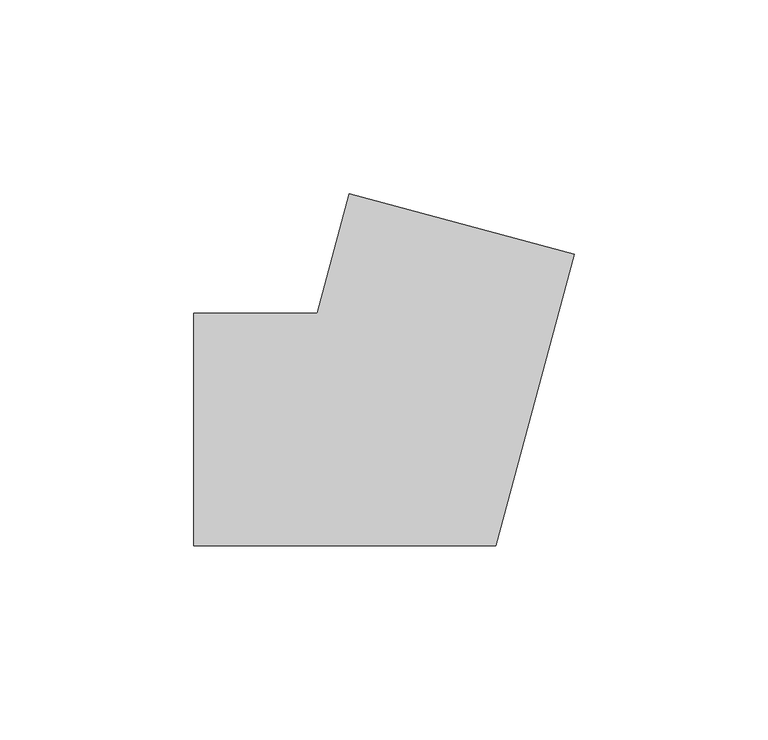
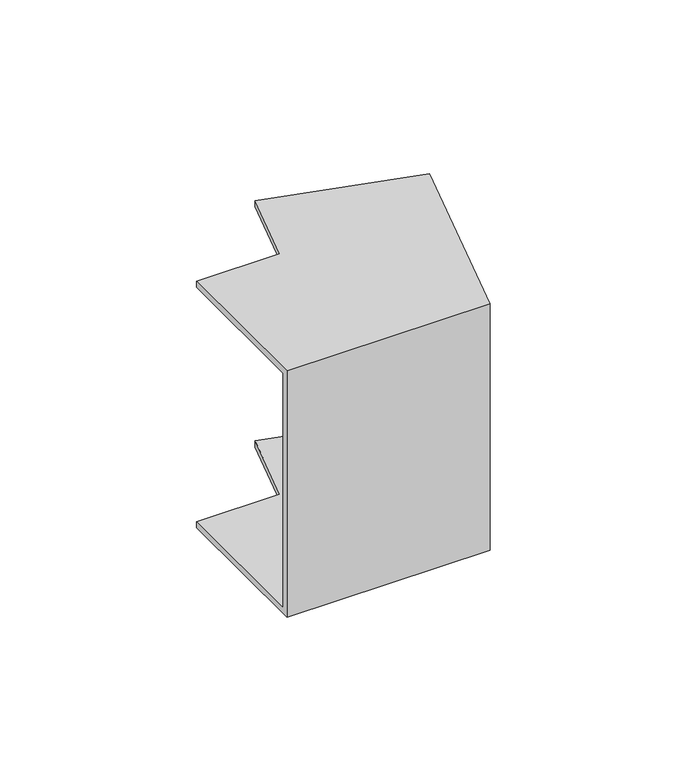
"""IFC4 building model written with IfcOpenShell, lengths in millimetres: cable carrier fitting geometry, КНС_УголВнутренний_ILC_DKC : Угол внутренний_DKC."""

from ifc_helpers import new_model, si_unit, origin, place, context, project, spatial, faceted_brep, source, transform, mapped, element, save


def cable_carrier_fitting_fd6ecaf9(model_context):
    return source(origin(), model_context, "Body", "Brep", [
        faceted_brep([(-54.8762542, -30.0, 50.0), (-54.8762542, 30.0, 50.0), (-54.8762542, 30.0, 47.5), (-54.8762542, -27.5, 47.5), (-54.8762542, -27.5, -47.5), (-54.8762542, 30.0, -47.5), (-54.8762542, 30.0, -50.0), (-54.8762542, -30.0, -50.0), (43.1807945, 45.2418198, 50.0), (43.1807945, 45.2418198, -50.0), (-14.7747551, 60.7709626, -50.0), (-14.7747551, 60.7709626, -47.5), (40.7659799, 45.8888675, -47.5), (40.7659799, 45.8888675, 47.5), (-14.7747551, 60.7709626, 47.5), (-14.7747551, 60.7709626, 50.0), (23.0198096, -30.0, 50.0), (-23.0198096, 30.0, 50.0), (-23.0198096, 30.0, 47.5), (21.1014922, -27.5, 47.5), (21.1014922, -27.5, -47.5), (-23.0198096, 30.0, -47.5), (-23.0198096, 30.0, -50.0), (23.0198096, -30.0, -50.0)], [[[0, 1, 2, 3, 4, 5, 6, 7]], [[8, 9, 10, 11, 12, 13, 14, 15]], [[1, 0, 16, 8, 15, 17]], [[2, 1, 17, 18]], [[3, 2, 18, 14, 13, 19]], [[4, 3, 19, 20]], [[5, 4, 20, 12, 11, 21]], [[6, 5, 21, 22]], [[7, 6, 22, 10, 9, 23]], [[0, 7, 23, 16]], [[18, 17, 15, 14]], [[20, 19, 13, 12]], [[22, 21, 11, 10]], [[16, 23, 9, 8]]]),
    ])


if __name__ == "__main__":
    model = new_model("IFC4")
    model_context = context("Model", 3, world=origin())
    ifc_project = project(units=[si_unit("LENGTHUNIT", "METRE", prefix="MILLI")], contexts=[model_context])
    site = spatial("IfcSite", under=ifc_project)
    building = spatial("IfcBuilding", under=site)
    placement = place(None, origin())
    cable_carrier_fitting_shape = cable_carrier_fitting_fd6ecaf9(model_context)
    element("IfcCableCarrierFitting", 1, ObjectType="КНС_УголВнутренний_ILC_DKC : Угол внутренний_DKC", at=placement, inside=building, context=model_context, shape_type="MappedRepresentation", body=[
        mapped(cable_carrier_fitting_shape, transform((0.0, 0.0, 0.0), x_axis=(1.0, 0.0, 0.0), y_axis=(0.0, 1.0, 0.0), z_axis=(0.0, 0.0, 1.0))),
    ])
    save(model, "model.ifc")
